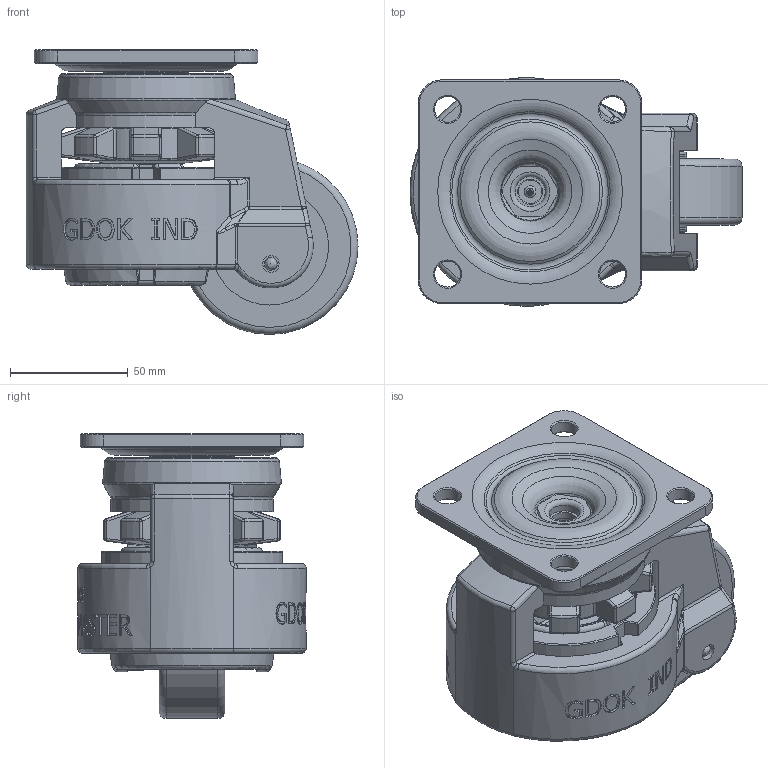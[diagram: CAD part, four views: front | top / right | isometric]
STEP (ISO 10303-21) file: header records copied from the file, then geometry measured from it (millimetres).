
FILE_DESCRIPTION(/* description */ (''),/* implementation_level */ '2;1');
FILE_NAME(/* name */ '32A04_3_F.stp',/* time_stamp */ '2022-09-05T08:44:19+08:00',/* author */ (''),/* organization */ (''),/* preprocessor_version */ 'ST-DEVELOPER v14',/* originating_system */ 'SIEMENS PLM Software NX 8.0',/* authorisation */ '');
FILE_SCHEMA (('AUTOMOTIVE_DESIGN { 1 0 10303 214 3 1 1 1 }'));
Products named in the file (1): 32A04_3_F
Bounding box: 141 x 97.04 x 121 mm (x, y, z)
Volume: 614711.5 mm3; surface area: 144973.3 mm2
Topology: 1 solids, 1 shells, 1572 faces, 4238 edges, 2674 vertices
Faces by surface type: plane 470, bspline 460, cylinder 292, cone 156, torus 140, sphere 54
Full cylindrical faces by diameter (mm): 3 x3, 5 x1, 7 x2, 8.6 x1, 8.8 x1, 10 x1, 10.6 x1, 10.7 x1, 11 x4, 12 x3, 12.8 x1, 20 x2, 25 x1, 27 x1, 28 x2, 30 x1, 41.6 x1, 42.6 x1, 42.7 x1, 43 x1, 50 x2, 75 x1
Entity records: 115286 total; most frequent: CARTESIAN_POINT 79431, ORIENTED_EDGE 8026, DIRECTION 6635, EDGE_CURVE 4013, AXIS2_PLACEMENT_3D 2706, VERTEX_POINT 2619, EDGE_LOOP 1772, ADVANCED_FACE 1572
